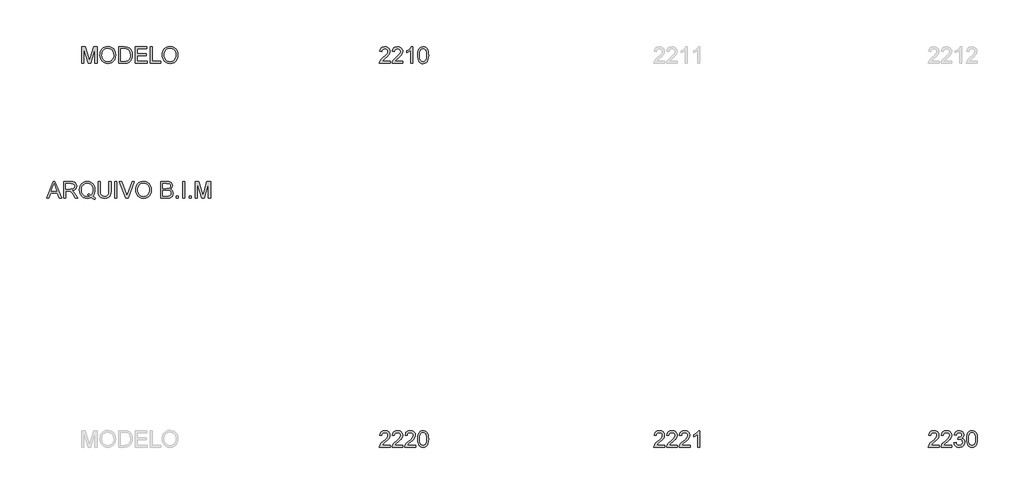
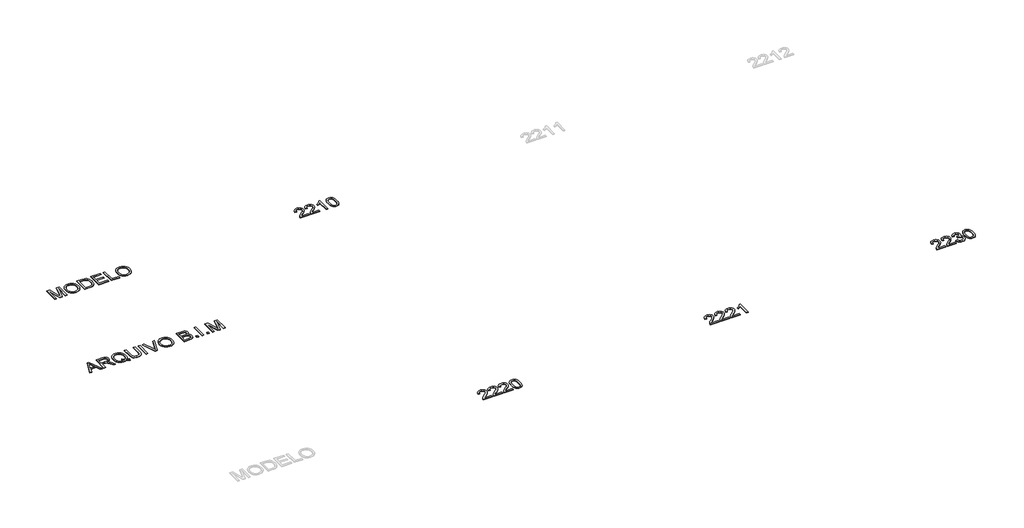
# One storey, part 4 of 6: 6 proxies.
"""IFC4 building model written with IfcOpenShell, lengths in millimetres."""

import ifcopenshell
import ifcopenshell.guid

model = None  # the IFC model being written
_history = None  # IfcOwnerHistory: only IFC2X3 demands one
_inside = {}  # id of a spatial element -> (the spatial element, [elements in it])
_under = {}  # id of a project, library or spatial element -> (it, [spatial elements below it])
_declared = {}  # id of a project -> (the project, [libraries it declares])
_typed = {}  # id of a type object -> (the type object, [elements of that type])
_made_of = {}  # id of a material, layer set ... -> (it, [elements and type objects made of it])


def new_model(schema):
    """Start an empty IFC model of exactly this schema.

    Asked for "IFC4X3", IfcOpenShell would pick the latest addendum, in which some entities
    have other attributes; the version numbers below select the first issue.
    IFC2X3 requires an IfcOwnerHistory on every rooted entity: one is made here for all.
    """
    global model, _history
    if schema == "IFC4X3":
        model = ifcopenshell.file(schema_version=(4, 3, 0, 0))
    else:
        model = ifcopenshell.file(schema=schema)
    _inside.clear()
    _under.clear()
    _declared.clear()
    _typed.clear()
    _made_of.clear()
    _history = None
    if model.schema == "IFC2X3":
        org = make("IfcOrganization", Name="unknown")
        user = make(
            "IfcPersonAndOrganization",
            ThePerson=make("IfcPerson", FamilyName="unknown"),
            TheOrganization=org,
        )
        app = make(
            "IfcApplication",
            ApplicationDeveloper=org,
            Version="unknown",
            ApplicationFullName="unknown",
            ApplicationIdentifier="unknown",
        )
        _history = make(
            "IfcOwnerHistory",
            OwningUser=user,
            OwningApplication=app,
            ChangeAction="ADDED",
            CreationDate=0,
        )
    return model


def make(cls, **values):
    """One entity of the class cls with the attributes given. An attribute that is None is left unset."""
    return model.create_entity(
        cls, **{name: value for name, value in values.items() if value is not None}
    )


def rooted(cls, **values):
    """An entity with a GlobalId (a new one), such as an element, a storey or a relation."""
    return make(cls, GlobalId=ifcopenshell.guid.new(), OwnerHistory=_history, **values)


def si_unit(unit_type, name, prefix=None):
    """IfcSIUnit, for example si_unit("LENGTHUNIT", "METRE", prefix="MILLI")."""
    return make("IfcSIUnit", UnitType=unit_type, Prefix=prefix, Name=name)


def assignment(units):
    """IfcUnitAssignment: the units of a project."""
    return None if units is None else make("IfcUnitAssignment", Units=units)


def point(xyz):
    """IfcCartesianPoint."""
    return None if xyz is None else make("IfcCartesianPoint", Coordinates=xyz)


def direction(xyz):
    """IfcDirection."""
    return None if xyz is None else make("IfcDirection", DirectionRatios=xyz)


def frame(location, z_axis=None, x_axis=None):
    """IfcAxis2Placement3D, a coordinate frame: its origin and axes. An axis left out is left unset."""
    return make(
        "IfcAxis2Placement3D",
        Location=point(location),
        Axis=direction(z_axis),
        RefDirection=direction(x_axis),
    )


def origin():
    """The frame at (0, 0, 0) with its axes left unset."""
    return frame((0.0, 0.0, 0.0))


def origin_with_axes():
    """The frame at (0, 0, 0) with the z axis (0, 0, 1) and the x axis (1, 0, 0) written out."""
    return frame((0.0, 0.0, 0.0), z_axis=(0.0, 0.0, 1.0), x_axis=(1.0, 0.0, 0.0))


def place(relative_to, where):
    """IfcLocalPlacement: puts the frame where relative to a parent placement (None: the world)."""
    return make(
        "IfcLocalPlacement", PlacementRelTo=relative_to, RelativePlacement=where
    )


def context(
    kind, dimensions, precision=None, world=None, true_north=None, identifier=None
):
    """IfcGeometricRepresentationContext, for example the 3D "Model" context."""
    return make(
        "IfcGeometricRepresentationContext",
        ContextIdentifier=identifier,
        ContextType=kind,
        CoordinateSpaceDimension=dimensions,
        Precision=precision,
        WorldCoordinateSystem=world,
        TrueNorth=true_north,
    )


def project(units=None, contexts=None):
    """IfcProject with its units and contexts."""
    return rooted(
        "IfcProject",
        Name="project",
        RepresentationContexts=contexts,
        UnitsInContext=assignment(units),
    )


def spatial(cls, under=None, at=None, **own):
    """A site, building, storey or space (cls), placed at a placement, below another one or the project."""
    s = rooted(cls, ObjectPlacement=at, **own)
    if under is not None:
        _under.setdefault(under.id(), (under, []))[1].append(s)
    return s


def polyline(points):
    """IfcPolyline through the points."""
    return make("IfcPolyline", Points=[point(p) for p in points])


def outline(outer, holes=None, kind="AREA"):
    """IfcArbitraryClosedProfileDef: a profile drawn as a closed curve; with holes, ...WithVoids."""
    if holes is None:
        return make("IfcArbitraryClosedProfileDef", ProfileType=kind, OuterCurve=outer)
    return make(
        "IfcArbitraryProfileDefWithVoids",
        ProfileType=kind,
        OuterCurve=outer,
        InnerCurves=holes,
    )


def extrude(swept, where, along, depth):
    """IfcExtrudedAreaSolid: the profile swept, set in the frame where, extruded along a direction by depth."""
    return make(
        "IfcExtrudedAreaSolid",
        SweptArea=swept,
        Position=where,
        ExtrudedDirection=direction(along),
        Depth=depth,
    )


def shape(context_of_items, identifier, shape_type, items):
    """IfcShapeRepresentation: the items that make up one representation, for example the "Body"."""
    return make(
        "IfcShapeRepresentation",
        ContextOfItems=context_of_items,
        RepresentationIdentifier=identifier,
        RepresentationType=shape_type,
        Items=items,
    )


def made_of(thing, what):
    """Note that an element or type object is made of a material, layer set ...; save() writes the relation."""
    if what is not None:
        _made_of.setdefault(what.id(), (what, []))[1].append(thing)
    return thing


def element(
    cls,
    number,
    at=None,
    inside=None,
    cuts=None,
    type_object=None,
    material=None,
    context=None,
    identifier="Body",
    shape_type=None,
    held_by="IfcProductDefinitionShape",
    body=None,
    shapes=None,
    **own,
):
    """One element of the class cls, such as IfcWall. Its Tag is "e" and its number.

    at: its placement. inside: the storey or other place that contains it. cuts: it is an
    opening in that element (IfcRelVoidsElement). A single representation is given by context,
    identifier, shape_type and body (its items); several are given by shapes. held_by: the class
    of the entity that holds the representations. save() writes the other relations.
    """
    e = rooted(cls, Tag="e%d" % number, ObjectPlacement=at, **own)
    if body is not None:
        shapes = [shape(context, identifier, shape_type, body)]
    if shapes is not None:
        e.Representation = make(held_by, Representations=shapes)
    if inside is not None:
        _inside.setdefault(inside.id(), (inside, []))[1].append(e)
    if cuts is not None:
        rooted(
            "IfcRelVoidsElement", RelatingBuildingElement=cuts, RelatedOpeningElement=e
        )
    if type_object is not None:
        _typed.setdefault(type_object.id(), (type_object, []))[1].append(e)
    return made_of(e, material)


def aggregate(whole, parts):
    """IfcRelAggregates: a whole, such as a stair, and the parts it consists of."""
    return rooted("IfcRelAggregates", RelatingObject=whole, RelatedObjects=parts)


def save(model, path):
    """Write the relations noted so far, then the file.

    IfcRelAggregates (storeys below a building ...), IfcRelContainedInSpatialStructure (elements
    in a storey), IfcRelDefinesByType, IfcRelAssociatesMaterial and IfcRelDeclares: one each for
    every whole, place, type object, material and project.
    """
    for whole, parts in _under.values():
        aggregate(whole, parts)
    for where, things in _inside.values():
        rooted(
            "IfcRelContainedInSpatialStructure",
            RelatedElements=things,
            RelatingStructure=where,
        )
    for kind, things in _typed.values():
        rooted("IfcRelDefinesByType", RelatedObjects=things, RelatingType=kind)
    for what, things in _made_of.values():
        rooted("IfcRelAssociatesMaterial", RelatedObjects=things, RelatingMaterial=what)
    for by, libraries in _declared.values():
        rooted("IfcRelDeclares", RelatingContext=by, RelatedDefinitions=libraries)
    model.write(path)


model = new_model("IFC4")

# Units and contexts
model_context = context("Model", 3, world=origin())
ifc_project = project(units=[si_unit("LENGTHUNIT", "METRE", prefix="MILLI")], contexts=[model_context])

# Site, building, storey
site = spatial("IfcSite", under=ifc_project)
building = spatial("IfcBuilding", under=site)
storey = spatial("IfcBuildingStorey", under=building, Name="Marelli - Linha HOSPITALITY - Planta Baixa", Elevation=0.0)

# Proxies
placement = place(None, origin())
element("IfcBuildingElementProxy", 1, Name="300mm Arial", ObjectType="300mm Arial", at=placement, inside=storey, context=model_context, shape_type="SweptSolid", body=[
    extrude(outline(polyline([(652.3420691, 2257.1047962), (652.3420691, 2219.4336799), (454.5687085, 2219.4336799), (458.6154104, 2245.4061488), (467.9044308, 2265.7040379), (481.4976705, 2285.3949217), (501.1609632, 2306.0055104), (528.6601423, 2329.0625145), (569.3111028, 2365.1701323), (593.701679, 2391.8231829), (605.8969672, 2413.4546442), (609.9620632, 2434.4974943), (606.1268934, 2453.3606436), (594.621384, 2469.0416137), (576.9354571, 2479.609024), (554.5590348, 2483.1314941), (531.0605723, 2479.6917974), (512.8044283, 2469.3727075), (501.0230074, 2452.9835646), (496.9487143, 2431.3337092), (459.277598, 2436.0425987), (468.4102685, 2472.4813103), (476.9566271, 2487.0172476), (488.1563346, 2499.0975727), (501.7518736, 2508.5935267), (517.4857267, 2515.376351), (555.3683751, 2520.8026104), (575.5581989, 2519.2942942), (593.5269351, 2514.7693457), (609.2745837, 2507.2277648), (622.8011449, 2496.6695515), (633.66516, 2483.8764551), (641.4251709, 2469.6302249), (646.0811774, 2453.9308607), (647.6331795, 2436.7783627), (645.9593165, 2418.761342), (640.9377272, 2401.057021), (632.0257859, 2383.0491973), (618.6808665, 2364.1216686), (597.4080901, 2341.5245171), (564.7125778, 2312.5078247), (521.3760788, 2276.2714482), (504.3799306, 2257.1047962), (652.3420691, 2257.1047962)])), origin_with_axes(), (0.0, 0.0, 1.0), 10.0),
    extrude(outline(polyline([(883.0776564, 2257.1047962), (883.0776564, 2219.4336799), (685.3042958, 2219.4336799), (689.3509978, 2245.4061488), (698.6400182, 2265.7040379), (712.2332579, 2285.3949217), (731.8965505, 2306.0055104), (759.3957297, 2329.0625145), (800.0466901, 2365.1701323), (824.4372664, 2391.8231829), (836.6325546, 2413.4546442), (840.6976506, 2434.4974943), (836.8624808, 2453.3606436), (825.3569714, 2469.0416137), (807.6710445, 2479.609024), (785.2946221, 2483.1314941), (761.7961597, 2479.6917974), (743.5400157, 2469.3727075), (731.7585948, 2452.9835646), (727.6843017, 2431.3337092), (690.0131854, 2436.0425987), (699.1458559, 2472.4813103), (707.6922145, 2487.0172476), (718.891922, 2499.0975727), (732.487461, 2508.5935267), (748.2213141, 2515.376351), (786.1039625, 2520.8026104), (806.2937863, 2519.2942942), (824.2625225, 2514.7693457), (840.0101711, 2507.2277648), (853.5367322, 2496.6695515), (864.4007474, 2483.8764551), (872.1607582, 2469.6302249), (876.8167647, 2453.9308607), (878.3687669, 2436.7783627), (876.6949038, 2418.761342), (871.6733146, 2401.057021), (862.7613733, 2383.0491973), (849.4164539, 2364.1216686), (828.1436775, 2341.5245171), (795.4481652, 2312.5078247), (752.1116662, 2276.2714482), (735.115518, 2257.1047962), (883.0776564, 2257.1047962)])), origin_with_axes(), (0.0, 0.0, 1.0), 10.0),
    extrude(outline(polyline([(1113.8132438, 2257.1047962), (1113.8132438, 2219.4336799), (916.0398832, 2219.4336799), (920.0865852, 2245.4061488), (929.3756055, 2265.7040379), (942.9688453, 2285.3949217), (962.6321379, 2306.0055104), (990.131317, 2329.0625145), (1030.7822775, 2365.1701323), (1055.1728538, 2391.8231829), (1067.3681419, 2413.4546442), (1071.433238, 2434.4974943), (1067.5980682, 2453.3606436), (1056.0925588, 2469.0416137), (1038.4066319, 2479.609024), (1016.0302095, 2483.1314941), (992.5317471, 2479.6917974), (974.275603, 2469.3727075), (962.4941822, 2452.9835646), (958.4198891, 2431.3337092), (920.7487728, 2436.0425987), (929.8814433, 2472.4813103), (938.4278019, 2487.0172476), (949.6275094, 2499.0975727), (963.2230484, 2508.5935267), (978.9569014, 2515.376351), (1016.8395499, 2520.8026104), (1037.0293736, 2519.2942942), (1054.9981098, 2514.7693457), (1070.7457585, 2507.2277648), (1084.2723196, 2496.6695515), (1095.1363348, 2483.8764551), (1102.8963456, 2469.6302249), (1107.5523521, 2453.9308607), (1109.1043543, 2436.7783627), (1107.4304912, 2418.761342), (1102.408902, 2401.057021), (1093.4969606, 2383.0491973), (1080.1520413, 2364.1216686), (1058.8792649, 2341.5245171), (1026.1837526, 2312.5078247), (982.8472535, 2276.2714482), (965.8511054, 2257.1047962), (1113.8132438, 2257.1047962)])), origin_with_axes(), (0.0, 0.0, 1.0), 10.0),
    extrude(outline(polyline([(1292.7510463, 2219.4336799), (1255.07993, 2219.4336799), (1255.07993, 2454.2895457), (1219.3953764, 2428.8688998), (1179.7376974, 2409.8494006), (1179.7376974, 2445.4603778), (1209.3246068, 2461.5552151), (1234.9567848, 2480.7034729), (1255.1627034, 2501.0657413), (1268.4708346, 2520.8026104), (1292.7510463, 2520.8026104), (1292.7510463, 2219.4336799)])), origin_with_axes(), (0.0, 0.0, 1.0), 10.0),
])
element("IfcBuildingElementProxy", 2, Name="300mm Arial", ObjectType="300mm Arial", at=placement, inside=storey, context=model_context, shape_type="SweptSolid", body=[
    extrude(outline(polyline([(5652.3420691, 2257.1047962), (5652.3420691, 2219.4336799), (5454.5687085, 2219.4336799), (5458.6154104, 2245.4061488), (5467.9044308, 2265.7040379), (5481.4976705, 2285.3949217), (5501.1609632, 2306.0055104), (5528.6601423, 2329.0625145), (5569.3111028, 2365.1701323), (5593.701679, 2391.8231829), (5605.8969672, 2413.4546442), (5609.9620632, 2434.4974943), (5606.1268934, 2453.3606436), (5594.621384, 2469.0416137), (5576.9354571, 2479.609024), (5554.5590348, 2483.1314941), (5531.0605723, 2479.6917974), (5512.8044283, 2469.3727075), (5501.0230074, 2452.9835646), (5496.9487143, 2431.3337092), (5459.277598, 2436.0425987), (5468.4102685, 2472.4813103), (5476.9566271, 2487.0172476), (5488.1563346, 2499.0975727), (5501.7518736, 2508.5935267), (5517.4857267, 2515.376351), (5555.3683751, 2520.8026104), (5575.5581989, 2519.2942942), (5593.5269351, 2514.7693457), (5609.2745837, 2507.2277648), (5622.8011449, 2496.6695515), (5633.66516, 2483.8764551), (5641.4251709, 2469.6302249), (5646.0811774, 2453.9308607), (5647.6331795, 2436.7783627), (5645.9593165, 2418.761342), (5640.9377272, 2401.057021), (5632.0257859, 2383.0491973), (5618.6808665, 2364.1216686), (5597.4080901, 2341.5245171), (5564.7125778, 2312.5078247), (5521.3760788, 2276.2714482), (5504.3799306, 2257.1047962), (5652.3420691, 2257.1047962)])), origin_with_axes(), (0.0, 0.0, 1.0), 10.0),
    extrude(outline(polyline([(5883.0776564, 2257.1047962), (5883.0776564, 2219.4336799), (5685.3042958, 2219.4336799), (5689.3509978, 2245.4061488), (5698.6400182, 2265.7040379), (5712.2332579, 2285.3949217), (5731.8965505, 2306.0055104), (5759.3957297, 2329.0625145), (5800.0466901, 2365.1701323), (5824.4372664, 2391.8231829), (5836.6325546, 2413.4546442), (5840.6976506, 2434.4974943), (5836.8624808, 2453.3606436), (5825.3569714, 2469.0416137), (5807.6710445, 2479.609024), (5785.2946221, 2483.1314941), (5761.7961597, 2479.6917974), (5743.5400157, 2469.3727075), (5731.7585948, 2452.9835646), (5727.6843017, 2431.3337092), (5690.0131854, 2436.0425987), (5699.1458559, 2472.4813103), (5707.6922145, 2487.0172476), (5718.891922, 2499.0975727), (5732.487461, 2508.5935267), (5748.2213141, 2515.376351), (5786.1039625, 2520.8026104), (5806.2937863, 2519.2942942), (5824.2625225, 2514.7693457), (5840.0101711, 2507.2277648), (5853.5367322, 2496.6695515), (5864.4007474, 2483.8764551), (5872.1607582, 2469.6302249), (5876.8167647, 2453.9308607), (5878.3687669, 2436.7783627), (5876.6949038, 2418.761342), (5871.6733146, 2401.057021), (5862.7613733, 2383.0491973), (5849.4164539, 2364.1216686), (5828.1436775, 2341.5245171), (5795.4481652, 2312.5078247), (5752.1116662, 2276.2714482), (5735.115518, 2257.1047962), (5883.0776564, 2257.1047962)])), origin_with_axes(), (0.0, 0.0, 1.0), 10.0),
    extrude(outline(polyline([(5920.7487728, 2299.4848021), (5958.4198891, 2304.1936916), (5966.8535838, 2280.5204852), (5979.2052218, 2264.5360125), (5996.0818083, 2255.4309332), (6018.0903487, 2252.3959067), (6043.9156647, 2256.5713673), (6063.8548689, 2269.0977493), (6076.60198, 2287.7861546), (6080.8510171, 2310.4476855), (6076.6387682, 2331.9595852), (6064.0020217, 2349.4063888), (6044.8721579, 2360.9670805), (6021.1805574, 2364.8206444), (5994.7666302, 2360.7003661), (5998.9604849, 2398.3714824), (6004.9937496, 2397.930024), (6027.56331, 2400.6339567), (6047.7416375, 2408.7457546), (6061.9786707, 2422.4677531), (6066.7243484, 2442.002287), (6063.2846518, 2458.2718683), (6052.9655618, 2471.4696348), (6037.2202124, 2480.2160293), (6017.5017375, 2483.1314941), (5997.7464743, 2480.1884381), (5981.5964548, 2471.3592702), (5969.8058368, 2456.6439904), (5963.1287786, 2436.0425987), (5925.4576623, 2440.7514882), (5936.5493044, 2474.5782377), (5956.2861735, 2499.8333367), (5983.2887119, 2515.5602919), (6016.1773623, 2520.8026104), (6039.8597657, 2518.2182394), (6061.6107887, 2510.4651263), (6079.9497062, 2498.23305), (6093.3957931, 2482.2117891), (6101.6455468, 2463.75331), (6104.3954647, 2444.209579), (6101.7835026, 2425.9994202), (6093.9476161, 2409.4815186), (6080.9981698, 2395.4100323), (6063.0455285, 2384.5391194), (6086.6267644, 2375.0109757), (6104.1011591, 2358.7873797), (6114.9168898, 2336.7512482), (6118.5221334, 2309.7854979), (6116.7195116, 2290.6740283), (6111.3116463, 2273.0708748), (6102.2985374, 2256.9760375), (6089.6801849, 2242.3895164), (6074.3073161, 2230.2861988), (6057.0306579, 2221.6409719), (6037.8502103, 2216.4538358), (6016.7659735, 2214.7247904), (5997.7096861, 2216.2009169), (5980.345656, 2220.6292964), (5964.673883, 2228.0099289), (5950.6943672, 2238.3428145), (5938.9727271, 2251.0209477), (5930.0745813, 2265.4373234), (5923.9999299, 2281.5919415), (5920.7487728, 2299.4848021)])), origin_with_axes(), (0.0, 0.0, 1.0), 10.0),
    extrude(outline(polyline([(6151.4843601, 2367.690124), (6154.2526721, 2415.9286506), (6162.5576082, 2454.3999103), (6176.3163948, 2483.6925141), (6195.4462585, 2504.3950734), (6220.0851552, 2516.7007261), (6250.3710404, 2520.8026104), (6273.5843943, 2518.3745892), (6294.3697271, 2511.0905257), (6311.7521513, 2499.2355284), (6324.7567799, 2483.0947059), (6334.5792291, 2462.8060138), (6342.4151156, 2438.5074081), (6347.5470695, 2407.6513057), (6349.2577207, 2367.690124), (6346.5169999, 2319.7275089), (6338.2948373, 2281.3482197), (6324.6188241, 2252.0280247), (6305.5165515, 2231.242692), (6280.8224726, 2218.8542658), (6250.3710404, 2214.7247904), (6229.6224959, 2216.5182151), (6211.2283961, 2221.8984893), (6195.1887412, 2230.8656129), (6181.5035309, 2243.419586), (6168.3701437, 2266.1133066), (6158.9891528, 2294.3896364), (6153.3605583, 2328.2485756), (6151.4843601, 2367.690124)]), holes=[polyline([(6189.1554764, 2367.7637004), (6193.5700604, 2308.507108), (6199.0882903, 2288.2391093), (6206.8138122, 2274.211309), (6226.5322871, 2257.8497573), (6250.3710404, 2252.3959067), (6274.2097937, 2257.8681514), (6293.9282687, 2274.2848854), (6301.6537906, 2288.3356784), (6307.1720205, 2308.5990785), (6311.5866044, 2367.7637004), (6307.3191733, 2425.6867205), (6301.9848844, 2445.8880406), (6294.5168798, 2460.249234), (6274.8351931, 2477.410929), (6249.929582, 2483.1314941), (6226.3483461, 2478.0915107), (6207.4024234, 2462.9715607), (6199.4193841, 2447.3365759), (6193.7172132, 2426.2569376), (6189.1554764, 2367.7637004)])]), origin_with_axes(), (0.0, 0.0, 1.0), 10.0),
])
element("IfcBuildingElementProxy", 3, Name="300mm Arial", ObjectType="300mm Arial", at=placement, inside=storey, context=model_context, shape_type="SweptSolid", body=[
    extrude(outline(polyline([(-10609.419598, 6760.5068139), (-10489.1221856, 7061.8757443), (-10457.0428756, 7061.8757443), (-10336.7454632, 6760.5068139), (-10376.550295, 6760.5068139), (-10411.0576262, 6854.6846047), (-10535.1810114, 6854.6846047), (-10569.6147661, 6760.5068139), (-10609.419598, 6760.5068139)]), holes=[polyline([(-10521.3486483, 6892.355721), (-10424.8164128, 6892.355721), (-10451.9661041, 6966.4471548), (-10473.0825306, 7024.204628), (-10491.8445123, 6972.9218779), (-10521.3486483, 6892.355721)])]), origin_with_axes(), (0.0, 0.0, 1.0), 10.0),
    extrude(outline(polyline([(-10296.4991729, 6760.5068139), (-10296.4991729, 7061.8757443), (-10166.6368286, 7061.8757443), (-10131.7340243, 7059.8431963), (-10106.3409696, 7053.7455523), (-10087.7813229, 7042.4883632), (-10073.3787428, 7024.9771802), (-10064.1357077, 7003.2629455), (-10061.054696, 6979.396601), (-10066.1590587, 6949.708524), (-10081.4721467, 6925.0972185), (-10093.0719259, 6915.0678356), (-10107.4538126, 6907.0526067), (-10144.5639089, 6897.0646105), (-10123.1531768, 6880.9513791), (-10092.6189712, 6842.1766168), (-10042.3662906, 6760.5068139), (-10086.144248, 6760.5068139), (-10125.3604687, 6822.9731767), (-10153.6873824, 6864.3231129), (-10173.5897983, 6883.8576469), (-10191.5056515, 6891.0313458), (-10213.357842, 6892.355721), (-10258.8280566, 6892.355721), (-10258.8280566, 6760.5068139), (-10296.4991729, 6760.5068139)]), holes=[polyline([(-10258.8280566, 6930.0268373), (-10174.5095033, 6930.0268373), (-10150.293671, 6931.3604095), (-10131.5040981, 6935.3611262), (-10117.3590353, 6942.2957018), (-10107.0767336, 6952.4308508), (-10100.8135426, 6964.6905183), (-10098.7258123, 6977.9986494), (-10102.7081349, 6996.3743551), (-10114.6551027, 7011.1816054), (-10135.2105092, 7020.9488724), (-10165.0181478, 7024.204628), (-10258.8280566, 7024.204628), (-10258.8280566, 6930.0268373)])]), origin_with_axes(), (0.0, 0.0, 1.0), 10.0),
    extrude(outline(polyline([(-9768.7356626, 6796.6328258), (-9744.4002686, 6778.036391), (-9722.0146492, 6765.2157034), (-9732.1681923, 6737.6245538), (-9763.2358268, 6752.0271339), (-9794.1930967, 6772.8676489), (-9829.0499157, 6760.0653555), (-9867.4016137, 6755.7979244), (-9905.9372527, 6760.718346), (-9940.7572836, 6775.4796111), (-9969.9211287, 6799.1528175), (-9991.4882107, 6830.8090632), (-10004.814736, 6868.7101057), (-10009.2569111, 6911.1177027), (-10004.823933, 6953.5620879), (-9991.5249989, 6992.0149535), (-9970.0406904, 7024.1218546), (-9941.0515892, 7047.5283465), (-9906.360317, 7061.820562), (-9867.7694957, 7066.5846339), (-9828.8751718, 7061.7101974), (-9794.0091557, 7047.0868881), (-9765.0660397, 7023.6895932), (-9743.9404161, 6992.4932001), (-9731.0277581, 6955.1531775), (-9726.7235388, 6913.3249947), (-9729.3355009, 6878.541752), (-9737.1713874, 6847.4741176), (-9750.2863806, 6820.1588794), (-9768.7356626, 6796.6328258)]), holes=[polyline([(-9857.0273415, 6846.7383536), (-9825.3527017, 6834.7637946), (-9799.784903, 6818.1171343), (-9784.3016695, 6835.5915291), (-9773.2422171, 6856.965473), (-9766.6065456, 6882.2389661), (-9764.3946551, 6911.4120083), (-9767.521652, 6944.5673731), (-9776.9026429, 6973.2529717), (-9792.3077015, 6996.7422371), (-9813.5069014, 7014.3086024), (-9839.065503, 7025.2622888), (-9867.5487665, 7028.9135176), (-9889.033075, 7027.0672098), (-9908.6043972, 7021.5282865), (-9926.2627329, 7012.2967477), (-9942.0080823, 6999.3725934), (-9954.9483315, 6982.7834146), (-9964.1913666, 6962.5568027), (-9969.7371877, 6938.6927575), (-9971.5857948, 6911.1912791), (-9969.7578811, 6884.4071706), (-9964.2741401, 6860.9294015), (-9955.1345718, 6840.7579719), (-9942.3391761, 6823.8928817), (-9926.7018921, 6810.5824512), (-9909.0366585, 6801.0750009), (-9889.3434755, 6795.3705307), (-9867.6223429, 6793.4690407), (-9846.7082515, 6795.4004211), (-9827.081747, 6801.1945626), (-9846.3771577, 6811.2193469), (-9866.7394261, 6817.8964051), (-9857.0273415, 6846.7383536)])]), origin_with_axes(), (0.0, 0.0, 1.0), 10.0),
    extrude(outline(polyline([(-9472.4435037, 7061.8757443), (-9434.7723874, 7061.8757443), (-9434.7723874, 6888.0147134), (-9437.3291673, 6847.2993736), (-9444.9995069, 6815.9466306), (-9459.3285106, 6791.7583894), (-9481.8612828, 6772.5365551), (-9512.6530058, 6759.9825821), (-9551.7588619, 6755.7979244), (-9590.0093923, 6759.4399561), (-9620.5895832, 6770.3660514), (-9643.5086315, 6788.1991311), (-9658.7757343, 6812.5621162), (-9667.3565818, 6845.2392344), (-9670.2168643, 6888.0147134), (-9670.2168643, 7061.8757443), (-9632.545748, 7061.8757443), (-9632.545748, 6889.3390886), (-9630.6879439, 6855.484748), (-9625.1145317, 6831.9127092), (-9615.0161709, 6815.5879456), (-9599.5835212, 6803.4754309), (-9579.4603761, 6795.9706382), (-9555.290529, 6793.4690407), (-9516.9756192, 6798.4170535), (-9502.6328199, 6804.6020695), (-9491.499791, 6813.261092), (-9483.1626653, 6825.437986), (-9477.2075755, 6842.1766168), (-9472.4435037, 6889.3390886), (-9472.4435037, 7061.8757443)])), origin_with_axes(), (0.0, 0.0, 1.0), 10.0),
    extrude(outline(polyline([(-9364.1390443, 6760.5068139), (-9364.1390443, 7061.8757443), (-9326.467928, 7061.8757443), (-9326.467928, 6760.5068139), (-9364.1390443, 6760.5068139)])), origin_with_axes(), (0.0, 0.0, 1.0), 10.0),
    extrude(outline(polyline([(-9162.0982526, 6760.5068139), (-9282.027783, 7061.8757443), (-9241.7079163, 7061.8757443), (-9161.436065, 6844.7517908), (-9145.1756808, 6795.8234854), (-9129.1360258, 6844.7517908), (-9048.6434453, 7061.8757443), (-9008.3235786, 7061.8757443), (-9123.1763375, 6760.5068139), (-9162.0982526, 6760.5068139)])), origin_with_axes(), (0.0, 0.0, 1.0), 10.0),
    extrude(outline(polyline([(-8987.4278813, 6907.2181536), (-8984.9170866, 6942.5670148), (-8977.3847028, 6973.859977), (-8964.8307297, 7001.0970402), (-8947.2551674, 7024.2782044), (-8925.711078, 7042.7872673), (-8901.2515239, 7056.0080265), (-8873.8765049, 7063.940482), (-8843.5860211, 7066.5846339), (-8804.0571008, 7061.6182269), (-8768.6116705, 7046.7190061), (-8739.1811109, 7022.9354352), (-8717.6968024, 6991.3159777), (-8704.5634152, 6953.387344), (-8700.1856194, 6910.6762443), (-8704.7933414, 6867.3949276), (-8718.6165074, 6828.932865), (-8740.8917622, 6797.2582252), (-8770.8557507, 6774.3391769), (-8805.9976783, 6760.4332375), (-8843.8067503, 6755.7979244), (-8883.942676, 6760.9206811), (-8919.5904413, 6776.2889515), (-8948.9474246, 6800.5139809), (-8970.2110039, 6832.2070148), (-8983.1236619, 6868.6733175), (-8987.4278813, 6907.2181536)]), holes=[polyline([(-8949.7567649, 6906.8502716), (-8947.873669, 6881.8756826), (-8942.2243811, 6859.7061939), (-8932.8089013, 6840.3418054), (-8919.6272295, 6823.7825171), (-8903.6036694, 6810.5203711), (-8885.6625243, 6801.0474098), (-8865.8037944, 6795.3636329), (-8844.0274795, 6793.4690407), (-8821.8786842, 6795.382027), (-8801.7854294, 6801.1209862), (-8783.7477154, 6810.685918), (-8767.7655419, 6824.0768227), (-8754.6804392, 6840.9855989), (-8745.3339373, 6861.1041455), (-8739.7260361, 6884.4324625), (-8737.8567357, 6910.9705499), (-8741.0573091, 6944.3190528), (-8750.6590292, 6973.1426071), (-8766.4135756, 6996.7146459), (-8788.0726281, 7014.3086024), (-8814.2014468, 7025.2622888), (-8843.3652919, 7028.9135176), (-8864.3851494, 7027.1545818), (-8883.8874937, 7021.8777744), (-8901.8723248, 7013.0830955), (-8918.3396426, 7000.7705449), (-8932.0846336, 6984.3469131), (-8941.9024844, 6963.2189903), (-8947.7931948, 6937.3867764), (-8949.7567649, 6906.8502716)])]), origin_with_axes(), (0.0, 0.0, 1.0), 10.0),
    extrude(outline(polyline([(-8530.665596, 6760.5068139), (-8530.665596, 7061.8757443), (-8415.6656844, 7061.8757443), (-8384.0370298, 7059.6592553), (-8359.3429509, 7053.0097883), (-8340.4154222, 7041.7617963), (-8326.0864185, 7025.7497324), (-8317.0641126, 7006.9141743), (-8314.0566773, 6987.1956993), (-8316.585866, 6969.0499199), (-8324.1734321, 6951.9893924), (-8336.874558, 6937.0625804), (-8354.7444259, 6925.3179477), (-8333.3980732, 6914.1711233), (-8317.6251326, 6897.2117633), (-8307.8854568, 6875.5619079), (-8304.6388982, 6850.3435971), (-8306.8553872, 6829.3283381), (-8313.5048543, 6809.8397894), (-8323.4284711, 6793.2667056), (-8335.4674094, 6780.997841), (-8350.2102804, 6772.1134908), (-8368.2456952, 6765.69395), (-8416.5486011, 6760.5068139), (-8530.665596, 6760.5068139)]), holes=[polyline([(-8492.9944797, 6939.4446164), (-8424.2005466, 6939.4446164), (-8384.0278328, 6942.6819779), (-8369.9655435, 6948.2645872), (-8359.8579857, 6956.6247055), (-8353.7603416, 6967.6335742), (-8351.7277936, 6981.1624346), (-8353.6223859, 6994.2958218), (-8359.3061627, 7005.7369519), (-8368.5216067, 7014.6672873), (-8381.0112004, 7020.2682907), (-8429.424471, 7024.204628), (-8492.9944797, 7024.204628), (-8492.9944797, 6939.4446164)]), polyline([(-8492.9944797, 6798.1779302), (-8415.7392607, 6798.1779302), (-8387.7802291, 6799.6494582), (-8364.1254168, 6807.8532267), (-8348.4536438, 6824.5918575), (-8343.8459218, 6836.4192636), (-8342.3100145, 6849.9757151), (-8344.1126363, 6865.7210645), (-8349.5205016, 6879.2591219), (-8358.9658718, 6889.8449264), (-8372.8810083, 6896.7335167), (-8392.5902862, 6900.5135042), (-8419.4180807, 6901.7735), (-8492.9944797, 6901.7735), (-8492.9944797, 6798.1779302)])]), origin_with_axes(), (0.0, 0.0, 1.0), 10.0),
    extrude(outline(polyline([(-8248.1322237, 6760.5068139), (-8248.1322237, 6798.1779302), (-8210.4611074, 6798.1779302), (-8210.4611074, 6760.5068139), (-8248.1322237, 6760.5068139)])), origin_with_axes(), (0.0, 0.0, 1.0), 10.0),
    extrude(outline(polyline([(-8130.4099853, 6760.5068139), (-8130.4099853, 7061.8757443), (-8092.738869, 7061.8757443), (-8092.738869, 6760.5068139), (-8130.4099853, 6760.5068139)])), origin_with_axes(), (0.0, 0.0, 1.0), 10.0),
    extrude(outline(polyline([(-8012.6877468, 6760.5068139), (-8012.6877468, 6798.1779302), (-7975.0166305, 6798.1779302), (-7975.0166305, 6760.5068139), (-8012.6877468, 6760.5068139)])), origin_with_axes(), (0.0, 0.0, 1.0), 10.0),
    extrude(outline(polyline([(-7899.6743979, 6760.5068139), (-7899.6743979, 7061.8757443), (-7834.8535904, 7061.8757443), (-7773.196568, 6849.4606803), (-7760.7621565, 6805.0941117), (-7747.2976755, 6853.1395003), (-7686.6707227, 7061.8757443), (-7621.8499152, 7061.8757443), (-7621.8499152, 6760.5068139), (-7659.5210315, 6760.5068139), (-7659.5210315, 7024.204628), (-7735.2311461, 6760.5068139), (-7786.293167, 6760.5068139), (-7862.0032816, 7024.204628), (-7862.0032816, 6760.5068139), (-7899.6743979, 6760.5068139)])), origin_with_axes(), (0.0, 0.0, 1.0), 10.0),
])
element("IfcBuildingElementProxy", 4, Name="300mm Arial", ObjectType="300mm Arial", at=placement, inside=storey, context=model_context, shape_type="SweptSolid", body=[
    extrude(outline(polyline([(-9966.8769052, 9219.4336799), (-9966.8769052, 9520.8026104), (-9902.0560977, 9520.8026104), (-9840.3990753, 9308.3875464), (-9827.9646638, 9264.0209777), (-9814.5001828, 9312.0663663), (-9753.87323, 9520.8026104), (-9689.0524225, 9520.8026104), (-9689.0524225, 9219.4336799), (-9726.7235388, 9219.4336799), (-9726.7235388, 9483.1314941), (-9802.4336534, 9219.4336799), (-9853.4956743, 9219.4336799), (-9929.2057889, 9483.1314941), (-9929.2057889, 9219.4336799), (-9966.8769052, 9219.4336799)])), origin_with_axes(), (0.0, 0.0, 1.0), 10.0),
    extrude(outline(polyline([(-9637.2546375, 9366.1450196), (-9634.7438429, 9401.4938808), (-9627.2114591, 9432.786843), (-9614.657486, 9460.0239063), (-9597.0819237, 9483.2050705), (-9575.5378343, 9501.7141334), (-9551.0782802, 9514.9348926), (-9523.7032612, 9522.8673481), (-9493.4127774, 9525.5114999), (-9453.883857, 9520.545093), (-9418.4384268, 9505.6458722), (-9389.0078672, 9481.8623012), (-9367.5235587, 9450.2428437), (-9354.3901714, 9412.31421), (-9350.0123757, 9369.6031104), (-9354.6200977, 9326.3217936), (-9368.4432637, 9287.859731), (-9390.7185185, 9256.1850912), (-9420.682507, 9233.266043), (-9455.8244346, 9219.3601035), (-9493.6335066, 9214.7247904), (-9533.7694323, 9219.8475472), (-9569.4171976, 9235.2158175), (-9598.7741808, 9259.4408469), (-9620.0377602, 9291.1338808), (-9632.9504182, 9327.6001836), (-9637.2546375, 9366.1450196)]), holes=[polyline([(-9599.5835212, 9365.7771376), (-9597.7004253, 9340.8025487), (-9592.0511374, 9318.6330599), (-9582.6356576, 9299.2686714), (-9569.4539858, 9282.7093831), (-9553.4304257, 9269.4472372), (-9535.4892806, 9259.9742758), (-9515.6305507, 9254.290499), (-9493.8542358, 9252.3959067), (-9471.7054404, 9254.3088931), (-9451.6121857, 9260.0478522), (-9433.5744716, 9269.6127841), (-9417.5922982, 9283.0036887), (-9404.5071955, 9299.9124649), (-9395.1606936, 9320.0310115), (-9389.5527924, 9343.3593285), (-9387.683492, 9369.897416), (-9390.8840654, 9403.2459188), (-9400.4857854, 9432.0694731), (-9416.2403319, 9455.641512), (-9437.8993843, 9473.2354684), (-9464.0282031, 9484.1891548), (-9493.1920482, 9487.8403836), (-9514.2119057, 9486.0814478), (-9533.71425, 9480.8046405), (-9551.699081, 9472.0099615), (-9568.1663988, 9459.697411), (-9581.9113899, 9443.2737792), (-9591.7292406, 9422.1458563), (-9597.6199511, 9396.3136425), (-9599.5835212, 9365.7771376)])]), origin_with_axes(), (0.0, 0.0, 1.0), 10.0),
    extrude(outline(polyline([(-9298.2145908, 9219.4336799), (-9298.2145908, 9520.8026104), (-9194.2511389, 9520.8026104), (-9140.4667912, 9516.4616028), (-9116.444097, 9508.0922874), (-9096.173799, 9494.9037179), (-9075.333284, 9471.9478814), (-9060.4892455, 9443.4002386), (-9051.6048953, 9409.8126124), (-9048.6434453, 9371.7368259), (-9050.6484021, 9339.3908015), (-9056.6632727, 9310.9259321), (-9065.8235344, 9286.6917057), (-9077.2646645, 9267.0376101), (-9090.4348399, 9251.522187), (-9104.7822377, 9239.7039779), (-9121.254154, 9230.9391893), (-9140.797885, 9224.5840279), (-9189.2479438, 9219.4336799), (-9298.2145908, 9219.4336799)]), holes=[polyline([(-9260.5434745, 9257.1047962), (-9193.8832569, 9257.1047962), (-9166.3105014, 9258.4659596), (-9145.39641, 9262.5494498), (-9129.6142724, 9269.1161434), (-9117.4373783, 9277.9269172), (-9104.3499764, 9294.2332866), (-9094.51833, 9315.3405161), (-9088.3655037, 9341.3405761), (-9086.3145616, 9372.3254371), (-9090.3336724, 9413.3810678), (-9102.3910047, 9443.6945442), (-9120.2056904, 9464.5166651), (-9141.4968608, 9477.0982294), (-9163.1651103, 9481.6231779), (-9194.9133265, 9483.1314941), (-9260.5434745, 9483.1314941), (-9260.5434745, 9257.1047962)])]), origin_with_axes(), (0.0, 0.0, 1.0), 10.0),
    extrude(outline(polyline([(-8996.8456603, 9219.4336799), (-8996.8456603, 9520.8026104), (-8780.2367416, 9520.8026104), (-8780.2367416, 9483.1314941), (-8959.174544, 9483.1314941), (-8959.174544, 9393.6625928), (-8789.6545206, 9393.6625928), (-8789.6545206, 9355.9914765), (-8959.174544, 9355.9914765), (-8959.174544, 9257.1047962), (-8775.527852, 9257.1047962), (-8775.527852, 9219.4336799), (-8996.8456603, 9219.4336799)])), origin_with_axes(), (0.0, 0.0, 1.0), 10.0),
    extrude(outline(polyline([(-8719.0211776, 9219.4336799), (-8719.0211776, 9520.8026104), (-8681.3500613, 9520.8026104), (-8681.3500613, 9257.1047962), (-8530.665596, 9257.1047962), (-8530.665596, 9219.4336799), (-8719.0211776, 9219.4336799)])), origin_with_axes(), (0.0, 0.0, 1.0), 10.0),
    extrude(outline(polyline([(-8502.4122588, 9366.1450196), (-8499.9014642, 9401.4938808), (-8492.3690803, 9432.786843), (-8479.8151073, 9460.0239063), (-8462.2395449, 9483.2050705), (-8440.6954556, 9501.7141334), (-8416.2359014, 9514.9348926), (-8388.8608825, 9522.8673481), (-8358.5703987, 9525.5114999), (-8319.0414783, 9520.545093), (-8283.5960481, 9505.6458722), (-8254.1654885, 9481.8623012), (-8232.6811799, 9450.2428437), (-8219.5477927, 9412.31421), (-8215.169997, 9369.6031104), (-8219.777719, 9326.3217936), (-8233.6008849, 9287.859731), (-8255.8761397, 9256.1850912), (-8285.8401283, 9233.266043), (-8320.9820558, 9219.3601035), (-8358.7911279, 9214.7247904), (-8398.9270536, 9219.8475472), (-8434.5748189, 9235.2158175), (-8463.9318021, 9259.4408469), (-8485.1953814, 9291.1338808), (-8498.1080395, 9327.6001836), (-8502.4122588, 9366.1450196)]), holes=[polyline([(-8464.7411425, 9365.7771376), (-8462.8580465, 9340.8025487), (-8457.2087587, 9318.6330599), (-8447.7932788, 9299.2686714), (-8434.6116071, 9282.7093831), (-8418.5880469, 9269.4472372), (-8400.6469019, 9259.9742758), (-8380.7881719, 9254.290499), (-8359.0118571, 9252.3959067), (-8336.8630617, 9254.3088931), (-8316.769807, 9260.0478522), (-8298.7320929, 9269.6127841), (-8282.7499195, 9283.0036887), (-8269.6648168, 9299.9124649), (-8260.3183148, 9320.0310115), (-8254.7104137, 9343.3593285), (-8252.8411133, 9369.897416), (-8256.0416866, 9403.2459188), (-8265.6434067, 9432.0694731), (-8281.3979532, 9455.641512), (-8303.0570056, 9473.2354684), (-8329.1858243, 9484.1891548), (-8358.3496695, 9487.8403836), (-8379.369527, 9486.0814478), (-8398.8718713, 9480.8046405), (-8416.8567023, 9472.0099615), (-8433.3240201, 9459.697411), (-8447.0690112, 9443.2737792), (-8456.8868619, 9422.1458563), (-8462.7775724, 9396.3136425), (-8464.7411425, 9365.7771376)])]), origin_with_axes(), (0.0, 0.0, 1.0), 10.0),
])
element("IfcBuildingElementProxy", 5, Name="300mm Arial", ObjectType="300mm Arial", at=placement, inside=storey, context=model_context, shape_type="SweptSolid", body=[
    extrude(outline(polyline([(-4347.6579309, 9257.1047962), (-4347.6579309, 9219.4336799), (-4545.4312915, 9219.4336799), (-4541.3845896, 9245.4061488), (-4532.0955692, 9265.7040379), (-4518.5023295, 9285.3949217), (-4498.8390368, 9306.0055104), (-4471.3398577, 9329.0625145), (-4430.6888972, 9365.1701323), (-4406.298321, 9391.8231829), (-4394.1030328, 9413.4546442), (-4390.0379368, 9434.4974943), (-4393.8731066, 9453.3606436), (-4405.378616, 9469.0416137), (-4423.0645429, 9479.609024), (-4445.4409652, 9483.1314941), (-4468.9394277, 9479.6917974), (-4487.1955717, 9469.3727075), (-4498.9769926, 9452.9835646), (-4503.0512857, 9431.3337092), (-4540.722402, 9436.0425987), (-4531.5897315, 9472.4813103), (-4523.0433729, 9487.0172476), (-4511.8436654, 9499.0975727), (-4498.2481264, 9508.5935267), (-4482.5142733, 9515.376351), (-4444.6316249, 9520.8026104), (-4424.4418011, 9519.2942942), (-4406.4730649, 9514.7693457), (-4390.7254163, 9507.2277648), (-4377.1988551, 9496.6695515), (-4366.33484, 9483.8764551), (-4358.5748291, 9469.6302249), (-4353.9188226, 9453.9308607), (-4352.3668205, 9436.7783627), (-4354.0406835, 9418.761342), (-4359.0622728, 9401.057021), (-4367.9742141, 9383.0491973), (-4381.3191335, 9364.1216686), (-4402.5919099, 9341.5245171), (-4435.2874222, 9312.5078247), (-4478.6239212, 9276.2714482), (-4495.6200694, 9257.1047962), (-4347.6579309, 9257.1047962)])), origin_with_axes(), (0.0, 0.0, 1.0), 10.0),
    extrude(outline(polyline([(-4116.9223436, 9257.1047962), (-4116.9223436, 9219.4336799), (-4314.6957042, 9219.4336799), (-4310.6490022, 9245.4061488), (-4301.3599818, 9265.7040379), (-4287.7667421, 9285.3949217), (-4268.1034495, 9306.0055104), (-4240.6042703, 9329.0625145), (-4199.9533099, 9365.1701323), (-4175.5627336, 9391.8231829), (-4163.3674454, 9413.4546442), (-4159.3023494, 9434.4974943), (-4163.1375192, 9453.3606436), (-4174.6430286, 9469.0416137), (-4192.3289555, 9479.609024), (-4214.7053779, 9483.1314941), (-4238.2038403, 9479.6917974), (-4256.4599843, 9469.3727075), (-4268.2414052, 9452.9835646), (-4272.3156983, 9431.3337092), (-4309.9868146, 9436.0425987), (-4300.8541441, 9472.4813103), (-4292.3077855, 9487.0172476), (-4281.108078, 9499.0975727), (-4267.512539, 9508.5935267), (-4251.7786859, 9515.376351), (-4213.8960375, 9520.8026104), (-4193.7062137, 9519.2942942), (-4175.7374775, 9514.7693457), (-4159.9898289, 9507.2277648), (-4146.4632678, 9496.6695515), (-4135.5992526, 9483.8764551), (-4127.8392418, 9469.6302249), (-4123.1832353, 9453.9308607), (-4121.6312331, 9436.7783627), (-4123.3050962, 9418.761342), (-4128.3266854, 9401.057021), (-4137.2386267, 9383.0491973), (-4150.5835461, 9364.1216686), (-4171.8563225, 9341.5245171), (-4204.5518348, 9312.5078247), (-4247.8883338, 9276.2714482), (-4264.884482, 9257.1047962), (-4116.9223436, 9257.1047962)])), origin_with_axes(), (0.0, 0.0, 1.0), 10.0),
    extrude(outline(polyline([(-3937.9845411, 9219.4336799), (-3975.6556574, 9219.4336799), (-3975.6556574, 9454.2895457), (-4011.3402109, 9428.8688998), (-4050.99789, 9409.8494006), (-4050.99789, 9445.4603778), (-4021.4109806, 9461.5552151), (-3995.7788025, 9480.7034729), (-3975.572884, 9501.0657413), (-3962.2647528, 9520.8026104), (-3937.9845411, 9520.8026104), (-3937.9845411, 9219.4336799)])), origin_with_axes(), (0.0, 0.0, 1.0), 10.0),
    extrude(outline(polyline([(-3848.5156399, 9367.690124), (-3845.7473279, 9415.9286506), (-3837.4423918, 9454.3999103), (-3823.6836052, 9483.6925141), (-3804.5537415, 9504.3950734), (-3779.9148448, 9516.7007261), (-3749.6289596, 9520.8026104), (-3726.4156057, 9518.3745892), (-3705.6302729, 9511.0905257), (-3688.2478487, 9499.2355284), (-3675.2432201, 9483.0947059), (-3665.4207709, 9462.8060138), (-3657.5848844, 9438.5074081), (-3652.4529305, 9407.6513057), (-3650.7422793, 9367.690124), (-3653.4830001, 9319.7275089), (-3661.7051627, 9281.3482197), (-3675.3811759, 9252.0280247), (-3694.4834485, 9231.242692), (-3719.1775274, 9218.8542658), (-3749.6289596, 9214.7247904), (-3770.3775041, 9216.5182151), (-3788.7716039, 9221.8984893), (-3804.8112588, 9230.8656129), (-3818.4964691, 9243.419586), (-3831.6298563, 9266.1133066), (-3841.0108472, 9294.3896364), (-3846.6394417, 9328.2485756), (-3848.5156399, 9367.690124)]), holes=[polyline([(-3810.8445236, 9367.7637004), (-3806.4299396, 9308.507108), (-3800.9117097, 9288.2391093), (-3793.1861878, 9274.211309), (-3773.4677129, 9257.8497573), (-3749.6289596, 9252.3959067), (-3725.7902063, 9257.8681514), (-3706.0717313, 9274.2848854), (-3698.3462094, 9288.3356784), (-3692.8279795, 9308.5990785), (-3688.4133956, 9367.7637004), (-3692.6808267, 9425.6867205), (-3698.0151156, 9445.8880406), (-3705.4831202, 9460.249234), (-3725.1648069, 9477.410929), (-3750.070418, 9483.1314941), (-3773.6516539, 9478.0915107), (-3792.5975766, 9462.9715607), (-3800.5806159, 9447.3365759), (-3806.2827868, 9426.2569376), (-3810.8445236, 9367.7637004)])]), origin_with_axes(), (0.0, 0.0, 1.0), 10.0),
])
element("IfcBuildingElementProxy", 6, Name="300mm Arial", ObjectType="300mm Arial", at=placement, inside=storey, context=model_context, shape_type="SweptSolid", body=[
    extrude(outline(polyline([(-4347.6579309, 2257.1047962), (-4347.6579309, 2219.4336799), (-4545.4312915, 2219.4336799), (-4541.3845896, 2245.4061488), (-4532.0955692, 2265.7040379), (-4518.5023295, 2285.3949217), (-4498.8390368, 2306.0055104), (-4471.3398577, 2329.0625145), (-4430.6888972, 2365.1701323), (-4406.298321, 2391.8231829), (-4394.1030328, 2413.4546442), (-4390.0379368, 2434.4974943), (-4393.8731066, 2453.3606436), (-4405.378616, 2469.0416137), (-4423.0645429, 2479.609024), (-4445.4409652, 2483.1314941), (-4468.9394277, 2479.6917974), (-4487.1955717, 2469.3727075), (-4498.9769926, 2452.9835646), (-4503.0512857, 2431.3337092), (-4540.722402, 2436.0425987), (-4531.5897315, 2472.4813103), (-4523.0433729, 2487.0172476), (-4511.8436654, 2499.0975727), (-4498.2481264, 2508.5935267), (-4482.5142733, 2515.376351), (-4444.6316249, 2520.8026104), (-4424.4418011, 2519.2942942), (-4406.4730649, 2514.7693457), (-4390.7254163, 2507.2277648), (-4377.1988551, 2496.6695515), (-4366.33484, 2483.8764551), (-4358.5748291, 2469.6302249), (-4353.9188226, 2453.9308607), (-4352.3668205, 2436.7783627), (-4354.0406835, 2418.761342), (-4359.0622728, 2401.057021), (-4367.9742141, 2383.0491973), (-4381.3191335, 2364.1216686), (-4402.5919099, 2341.5245171), (-4435.2874222, 2312.5078247), (-4478.6239212, 2276.2714482), (-4495.6200694, 2257.1047962), (-4347.6579309, 2257.1047962)])), origin_with_axes(), (0.0, 0.0, 1.0), 10.0),
    extrude(outline(polyline([(-4116.9223436, 2257.1047962), (-4116.9223436, 2219.4336799), (-4314.6957042, 2219.4336799), (-4310.6490022, 2245.4061488), (-4301.3599818, 2265.7040379), (-4287.7667421, 2285.3949217), (-4268.1034495, 2306.0055104), (-4240.6042703, 2329.0625145), (-4199.9533099, 2365.1701323), (-4175.5627336, 2391.8231829), (-4163.3674454, 2413.4546442), (-4159.3023494, 2434.4974943), (-4163.1375192, 2453.3606436), (-4174.6430286, 2469.0416137), (-4192.3289555, 2479.609024), (-4214.7053779, 2483.1314941), (-4238.2038403, 2479.6917974), (-4256.4599843, 2469.3727075), (-4268.2414052, 2452.9835646), (-4272.3156983, 2431.3337092), (-4309.9868146, 2436.0425987), (-4300.8541441, 2472.4813103), (-4292.3077855, 2487.0172476), (-4281.108078, 2499.0975727), (-4267.512539, 2508.5935267), (-4251.7786859, 2515.376351), (-4213.8960375, 2520.8026104), (-4193.7062137, 2519.2942942), (-4175.7374775, 2514.7693457), (-4159.9898289, 2507.2277648), (-4146.4632678, 2496.6695515), (-4135.5992526, 2483.8764551), (-4127.8392418, 2469.6302249), (-4123.1832353, 2453.9308607), (-4121.6312331, 2436.7783627), (-4123.3050962, 2418.761342), (-4128.3266854, 2401.057021), (-4137.2386267, 2383.0491973), (-4150.5835461, 2364.1216686), (-4171.8563225, 2341.5245171), (-4204.5518348, 2312.5078247), (-4247.8883338, 2276.2714482), (-4264.884482, 2257.1047962), (-4116.9223436, 2257.1047962)])), origin_with_axes(), (0.0, 0.0, 1.0), 10.0),
    extrude(outline(polyline([(-3886.1867562, 2257.1047962), (-3886.1867562, 2219.4336799), (-4083.9601168, 2219.4336799), (-4079.9134148, 2245.4061488), (-4070.6243945, 2265.7040379), (-4057.0311547, 2285.3949217), (-4037.3678621, 2306.0055104), (-4009.868683, 2329.0625145), (-3969.2177225, 2365.1701323), (-3944.8271462, 2391.8231829), (-3932.6318581, 2413.4546442), (-3928.566762, 2434.4974943), (-3932.4019318, 2453.3606436), (-3943.9074412, 2469.0416137), (-3961.5933681, 2479.609024), (-3983.9697905, 2483.1314941), (-4007.4682529, 2479.6917974), (-4025.724397, 2469.3727075), (-4037.5058178, 2452.9835646), (-4041.5801109, 2431.3337092), (-4079.2512272, 2436.0425987), (-4070.1185567, 2472.4813103), (-4061.5721981, 2487.0172476), (-4050.3724906, 2499.0975727), (-4036.7769516, 2508.5935267), (-4021.0430986, 2515.376351), (-3983.1604501, 2520.8026104), (-3962.9706264, 2519.2942942), (-3945.0018902, 2514.7693457), (-3929.2542415, 2507.2277648), (-3915.7276804, 2496.6695515), (-3904.8636652, 2483.8764551), (-3897.1036544, 2469.6302249), (-3892.4476479, 2453.9308607), (-3890.8956457, 2436.7783627), (-3892.5695088, 2418.761342), (-3897.591098, 2401.057021), (-3906.5030394, 2383.0491973), (-3919.8479587, 2364.1216686), (-3941.1207351, 2341.5245171), (-3973.8162474, 2312.5078247), (-4017.1527465, 2276.2714482), (-4034.1488946, 2257.1047962), (-3886.1867562, 2257.1047962)])), origin_with_axes(), (0.0, 0.0, 1.0), 10.0),
    extrude(outline(polyline([(-3848.5156399, 2367.690124), (-3845.7473279, 2415.9286506), (-3837.4423918, 2454.3999103), (-3823.6836052, 2483.6925141), (-3804.5537415, 2504.3950734), (-3779.9148448, 2516.7007261), (-3749.6289596, 2520.8026104), (-3726.4156057, 2518.3745892), (-3705.6302729, 2511.0905257), (-3688.2478487, 2499.2355284), (-3675.2432201, 2483.0947059), (-3665.4207709, 2462.8060138), (-3657.5848844, 2438.5074081), (-3652.4529305, 2407.6513057), (-3650.7422793, 2367.690124), (-3653.4830001, 2319.7275089), (-3661.7051627, 2281.3482197), (-3675.3811759, 2252.0280247), (-3694.4834485, 2231.242692), (-3719.1775274, 2218.8542658), (-3749.6289596, 2214.7247904), (-3770.3775041, 2216.5182151), (-3788.7716039, 2221.8984893), (-3804.8112588, 2230.8656129), (-3818.4964691, 2243.419586), (-3831.6298563, 2266.1133066), (-3841.0108472, 2294.3896364), (-3846.6394417, 2328.2485756), (-3848.5156399, 2367.690124)]), holes=[polyline([(-3810.8445236, 2367.7637004), (-3806.4299396, 2308.507108), (-3800.9117097, 2288.2391093), (-3793.1861878, 2274.211309), (-3773.4677129, 2257.8497573), (-3749.6289596, 2252.3959067), (-3725.7902063, 2257.8681514), (-3706.0717313, 2274.2848854), (-3698.3462094, 2288.3356784), (-3692.8279795, 2308.5990785), (-3688.4133956, 2367.7637004), (-3692.6808267, 2425.6867205), (-3698.0151156, 2445.8880406), (-3705.4831202, 2460.249234), (-3725.1648069, 2477.410929), (-3750.070418, 2483.1314941), (-3773.6516539, 2478.0915107), (-3792.5975766, 2462.9715607), (-3800.5806159, 2447.3365759), (-3806.2827868, 2426.2569376), (-3810.8445236, 2367.7637004)])]), origin_with_axes(), (0.0, 0.0, 1.0), 10.0),
])

save(model, "model.ifc")
